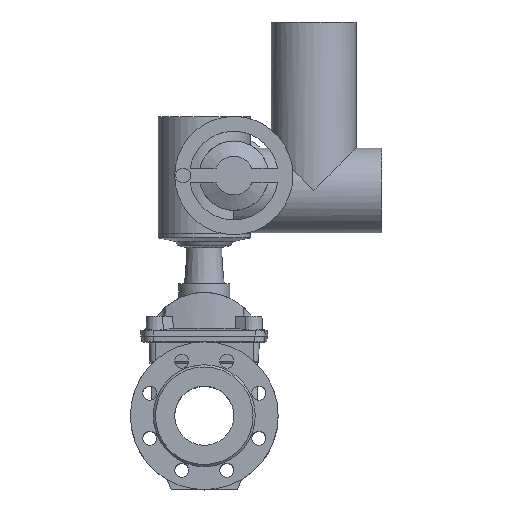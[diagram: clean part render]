
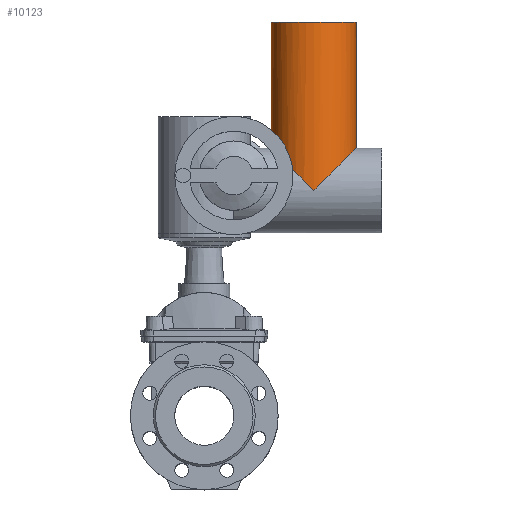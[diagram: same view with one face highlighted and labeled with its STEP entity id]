
A CAD part, top view. The second image highlights one B-rep face of the part: STEP entity #10123.
In plain terms, the highlighted cylindrical face has radius 57.5 mm (diameter 115 mm), a full revolution.
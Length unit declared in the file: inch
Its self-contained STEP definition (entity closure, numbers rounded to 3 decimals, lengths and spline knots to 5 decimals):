
#12 = AXIS2_PLACEMENT_3D ( 'NONE', #5630, #5631, #5632 ) ;
#1649 = VERTEX_POINT ( 'NONE', #8225 ) ;
#1654 = VERTEX_POINT ( 'NONE', #8230 ) ;
#1738 = EDGE_LOOP ( 'NONE', ( #5023 ) ) ;
#2393 = FACE_OUTER_BOUND ( 'NONE', #1738, .T. ) ;
#2396 = FACE_OUTER_BOUND ( 'NONE', #3561, .T. ) ;
#2398 = CYLINDRICAL_SURFACE ( 'NONE', #6528, 2.26378 ) ;
#2494 = VERTEX_POINT ( 'NONE', #6922 ) ;
#3561 = EDGE_LOOP ( 'NONE', ( #5024, #5025 ) ) ;
#5023 = ORIENTED_EDGE ( 'NONE', *, *, #8757, .F. ) ;
#5024 = ORIENTED_EDGE ( 'NONE', *, *, #8780, .F. ) ;
#5025 = ORIENTED_EDGE ( 'NONE', *, *, #8756, .F. ) ;
#5616 = CARTESIAN_POINT ( 'NONE',  ( 1.29921, 16.53543, 2.85433 ) ) ;
#5617 = CARTESIAN_POINT ( 'NONE',  ( 5.82677, 12.00787, 2.85433 ) ) ;
#5626 = CARTESIAN_POINT ( 'NONE',  ( 1.29921, 16.53543, -1.67323 ) ) ;
#5627 = CARTESIAN_POINT ( 'NONE',  ( 5.82677, 12.00787, -1.67323 ) ) ;
#5630 = CARTESIAN_POINT ( 'NONE',  ( 5.82677, 20.98425, 0.59055 ) ) ;
#5631 = DIRECTION ( 'NONE',  ( 0., 1., 0. ) ) ;
#5632 = DIRECTION ( 'NONE',  ( 0., 0., 1. ) ) ;
#5696 = CARTESIAN_POINT ( 'NONE',  ( 5.82677, 12.00787, -1.67323 ) ) ;
#5697 = CARTESIAN_POINT ( 'NONE',  ( 10.35433, 16.53543, -1.67323 ) ) ;
#5702 = CARTESIAN_POINT ( 'NONE',  ( 10.35433, 16.53543, 2.85433 ) ) ;
#5703 = CARTESIAN_POINT ( 'NONE',  ( 5.82677, 12.00787, 2.85433 ) ) ;
#6528 = AXIS2_PLACEMENT_3D ( 'NONE', #6748, #6745, #6741 ) ;
#6741 = DIRECTION ( 'NONE',  ( 0., 0., 1. ) ) ;
#6745 = DIRECTION ( 'NONE',  ( 0., 1., 0. ) ) ;
#6748 = CARTESIAN_POINT ( 'NONE',  ( 5.82677, 12.00787, 0.59055 ) ) ;
#6922 = CARTESIAN_POINT ( 'NONE',  ( 5.82677, 20.98425, 2.85433 ) ) ;
#7374 =( BOUNDED_CURVE ( )  B_SPLINE_CURVE ( 3, ( #5617, #5616, #5626, #5627 ),
 .UNSPECIFIED., .F., .F. ) 
 B_SPLINE_CURVE_WITH_KNOTS ( ( 4, 4 ),
 ( 4.71239, 7.85398 ),
 .UNSPECIFIED. ) 
 CURVE ( )  GEOMETRIC_REPRESENTATION_ITEM ( )  RATIONAL_B_SPLINE_CURVE ( ( 1., 0.333, 0.333, 1. ) ) 
 REPRESENTATION_ITEM ( '' )  );
#7381 =( BOUNDED_CURVE ( )  B_SPLINE_CURVE ( 3, ( #5696, #5697, #5702, #5703 ),
 .UNSPECIFIED., .F., .F. ) 
 B_SPLINE_CURVE_WITH_KNOTS ( ( 4, 4 ),
 ( 1.5708, 4.71239 ),
 .UNSPECIFIED. ) 
 CURVE ( )  GEOMETRIC_REPRESENTATION_ITEM ( )  RATIONAL_B_SPLINE_CURVE ( ( 1., 0.333, 0.333, 1. ) ) 
 REPRESENTATION_ITEM ( '' )  );
#7780 = CIRCLE ( 'NONE', #12, 2.26378 ) ;
#8225 = CARTESIAN_POINT ( 'NONE',  ( 5.82677, 12.00787, -1.67323 ) ) ;
#8230 = CARTESIAN_POINT ( 'NONE',  ( 5.82677, 12.00787, 2.85433 ) ) ;
#8756 = EDGE_CURVE ( 'NONE', #1654, #1649, #7374, .T. ) ;
#8757 = EDGE_CURVE ( 'NONE', #2494, #2494, #7780, .T. ) ;
#8780 = EDGE_CURVE ( 'NONE', #1649, #1654, #7381, .T. ) ;
#10123 = ADVANCED_FACE ( 'NONE', ( #2393, #2396 ), #2398, .T. ) ;
